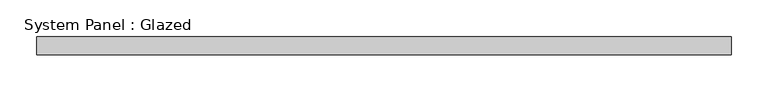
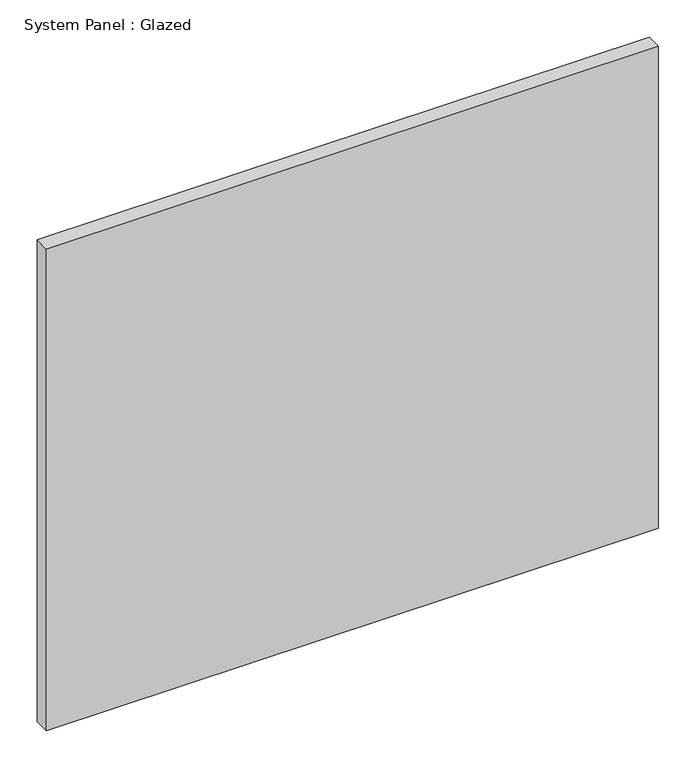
"""IFC4 building model written with IfcOpenShell, lengths in millimetres: plate geometry, System Panel : Glazed."""

from ifc_helpers import new_model, si_unit, origin, origin_with_axes, place, context, project, spatial, polyline, outline, extrude, source, transform, mapped, element, save


def system_panel_glazed_3868a10e(model_context):
    return source(origin(), model_context, "Body", "SweptSolid", [
        extrude(outline(polyline([(475.0, 24.5), (-475.0, 24.5), (-475.0, 49.5), (475.0, 49.5), (475.0, 24.5)])), origin_with_axes(), (0.0, 0.0, 1.0), 790.592625),
    ])


if __name__ == "__main__":
    model = new_model("IFC4")
    model_context = context("Model", 3, world=origin())
    ifc_project = project(units=[si_unit("LENGTHUNIT", "METRE", prefix="MILLI")], contexts=[model_context])
    site = spatial("IfcSite", under=ifc_project)
    building = spatial("IfcBuilding", under=site)
    placement = place(None, origin())
    system_panel_glazed_shape = system_panel_glazed_3868a10e(model_context)
    element("IfcPlate", 1, ObjectType="System Panel : Glazed", at=placement, inside=building, context=model_context, shape_type="MappedRepresentation", body=[
        mapped(system_panel_glazed_shape, transform((0.0, 0.0, 0.0), x_axis=(1.0, 0.0, 0.0), y_axis=(0.0, 1.0, 0.0), z_axis=(0.0, 0.0, 1.0))),
    ])
    save(model, "model.ifc")
